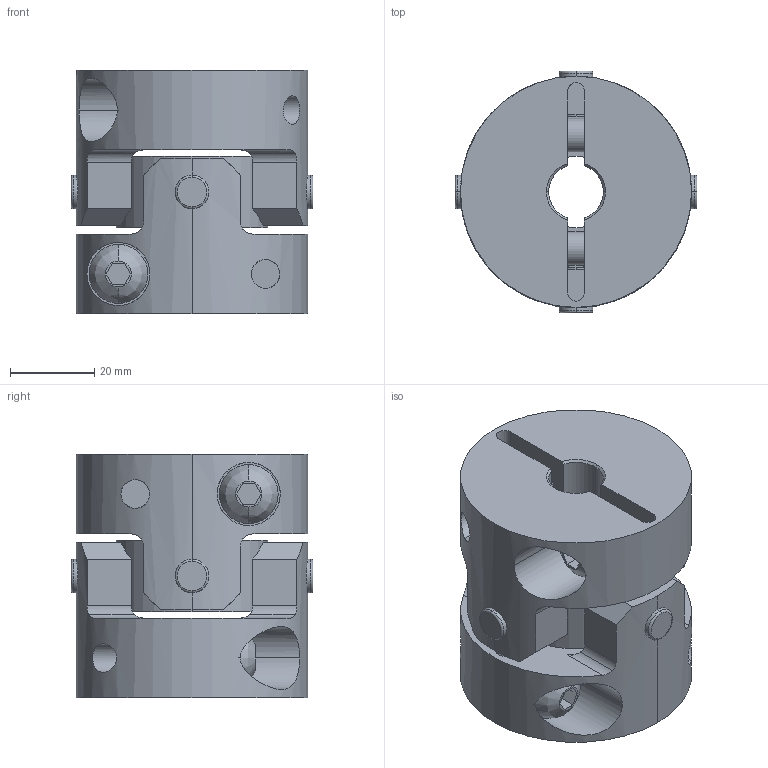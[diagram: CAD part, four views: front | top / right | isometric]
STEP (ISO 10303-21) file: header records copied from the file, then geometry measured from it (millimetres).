
FILE_DESCRIPTION((''),'2;1');
FILE_NAME('UA-55C-13×25.stp','2013-05-22T13:53:51',(''),(''),'AutoCAD STEP 2000i','AutoCAD 2000i',', , ');
FILE_SCHEMA(('CONFIG_CONTROL_DESIGN'));
Length unit declared in the file: millimetre
Products named in the file (7): UA-55C-10×18; 忣兜1; UA-5502-D18; BTN-M8; UA-5502-D10-1; UA-5502-D10; UA55-SEN
Assembly tree (8 placements, depth 3):
  UA-55C-10×18
    忣兜1
    UA-5502-D18
      BTN-M8
    UA-5502-D10-1
      BTN-M8
    UA-5502-D10
      BTN-M8
    UA55-SEN
Bounding box: 57.55 x 57.55 x 58 mm (x, y, z)
Volume: 95625.7 mm3; surface area: 30967.5 mm2
Topology: 1 solids, 1 shells, 206 faces, 554 edges, 364 vertices
Faces by surface type: cylinder 96, plane 78, cone 16, bspline 8, torus 8
Entity records: 8407 total; most frequent: CARTESIAN_POINT 3071, ORIENTED_EDGE 1108, DIRECTION 1068, EDGE_CURVE 554, AXIS2_PLACEMENT_3D 411, VERTEX_POINT 364, VECTOR 246, LINE 246
